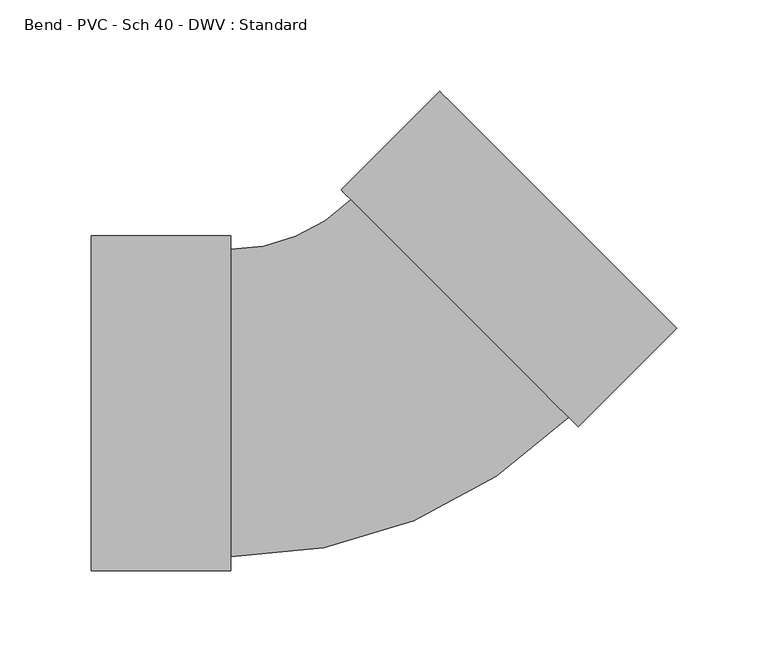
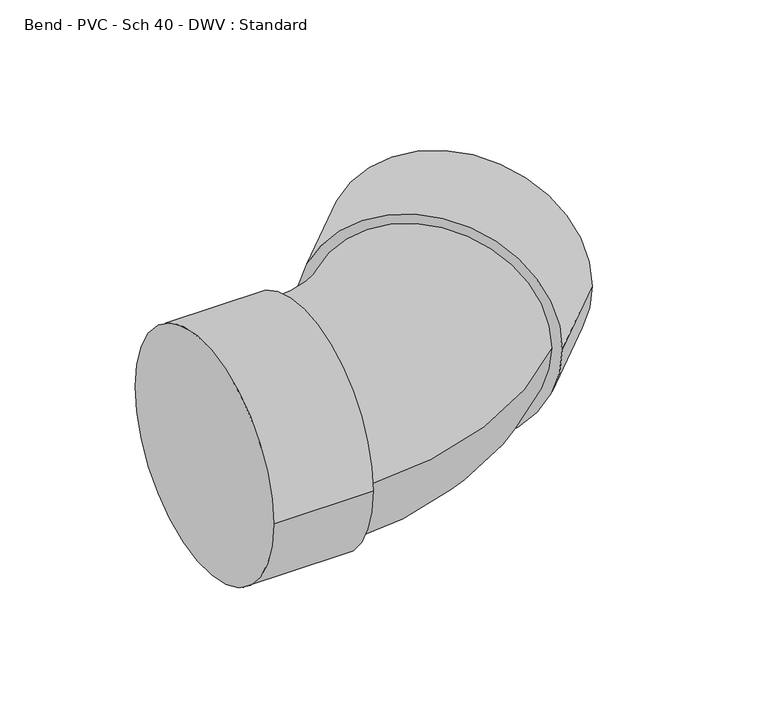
"""IFC4 building model written with IfcOpenShell, lengths in millimetres: pipe fitting geometry, Bend - PVC - Sch 40 - DWV : Standard."""

import ifcopenshell
import ifcopenshell.guid

model = None  # the IFC model being written
_history = None  # IfcOwnerHistory: only IFC2X3 demands one
_inside = {}  # id of a spatial element -> (the spatial element, [elements in it])
_under = {}  # id of a project, library or spatial element -> (it, [spatial elements below it])
_declared = {}  # id of a project -> (the project, [libraries it declares])
_typed = {}  # id of a type object -> (the type object, [elements of that type])
_made_of = {}  # id of a material, layer set ... -> (it, [elements and type objects made of it])


def new_model(schema):
    """Start an empty IFC model of exactly this schema.

    Asked for "IFC4X3", IfcOpenShell would pick the latest addendum, in which some entities
    have other attributes; the version numbers below select the first issue.
    IFC2X3 requires an IfcOwnerHistory on every rooted entity: one is made here for all.
    """
    global model, _history
    if schema == "IFC4X3":
        model = ifcopenshell.file(schema_version=(4, 3, 0, 0))
    else:
        model = ifcopenshell.file(schema=schema)
    _inside.clear()
    _under.clear()
    _declared.clear()
    _typed.clear()
    _made_of.clear()
    _history = None
    if model.schema == "IFC2X3":
        org = make("IfcOrganization", Name="unknown")
        user = make(
            "IfcPersonAndOrganization",
            ThePerson=make("IfcPerson", FamilyName="unknown"),
            TheOrganization=org,
        )
        app = make(
            "IfcApplication",
            ApplicationDeveloper=org,
            Version="unknown",
            ApplicationFullName="unknown",
            ApplicationIdentifier="unknown",
        )
        _history = make(
            "IfcOwnerHistory",
            OwningUser=user,
            OwningApplication=app,
            ChangeAction="ADDED",
            CreationDate=0,
        )
    return model


def make(cls, **values):
    """One entity of the class cls with the attributes given. An attribute that is None is left unset."""
    return model.create_entity(
        cls, **{name: value for name, value in values.items() if value is not None}
    )


def rooted(cls, **values):
    """An entity with a GlobalId (a new one), such as an element, a storey or a relation."""
    return make(cls, GlobalId=ifcopenshell.guid.new(), OwnerHistory=_history, **values)


def si_unit(unit_type, name, prefix=None):
    """IfcSIUnit, for example si_unit("LENGTHUNIT", "METRE", prefix="MILLI")."""
    return make("IfcSIUnit", UnitType=unit_type, Prefix=prefix, Name=name)


def assignment(units):
    """IfcUnitAssignment: the units of a project."""
    return None if units is None else make("IfcUnitAssignment", Units=units)


def point(xyz):
    """IfcCartesianPoint."""
    return None if xyz is None else make("IfcCartesianPoint", Coordinates=xyz)


def direction(xyz):
    """IfcDirection."""
    return None if xyz is None else make("IfcDirection", DirectionRatios=xyz)


def frame(location, z_axis=None, x_axis=None):
    """IfcAxis2Placement3D, a coordinate frame: its origin and axes. An axis left out is left unset."""
    return make(
        "IfcAxis2Placement3D",
        Location=point(location),
        Axis=direction(z_axis),
        RefDirection=direction(x_axis),
    )


def origin():
    """The frame at (0, 0, 0) with its axes left unset."""
    return frame((0.0, 0.0, 0.0))


def place(relative_to, where):
    """IfcLocalPlacement: puts the frame where relative to a parent placement (None: the world)."""
    return make(
        "IfcLocalPlacement", PlacementRelTo=relative_to, RelativePlacement=where
    )


def context(
    kind, dimensions, precision=None, world=None, true_north=None, identifier=None
):
    """IfcGeometricRepresentationContext, for example the 3D "Model" context."""
    return make(
        "IfcGeometricRepresentationContext",
        ContextIdentifier=identifier,
        ContextType=kind,
        CoordinateSpaceDimension=dimensions,
        Precision=precision,
        WorldCoordinateSystem=world,
        TrueNorth=true_north,
    )


def project(units=None, contexts=None):
    """IfcProject with its units and contexts."""
    return rooted(
        "IfcProject",
        Name="project",
        RepresentationContexts=contexts,
        UnitsInContext=assignment(units),
    )


def spatial(cls, under=None, at=None, **own):
    """A site, building, storey or space (cls), placed at a placement, below another one or the project."""
    s = rooted(cls, ObjectPlacement=at, **own)
    if under is not None:
        _under.setdefault(under.id(), (under, []))[1].append(s)
    return s


def circle_curve(where, radius):
    """IfcCircle in the frame where."""
    return make("IfcCircle", Position=where, Radius=radius)


def ellipse_curve(where, semi_axis1, semi_axis2):
    """IfcEllipse in the frame where."""
    return make(
        "IfcEllipse", Position=where, SemiAxis1=semi_axis1, SemiAxis2=semi_axis2
    )


def trimmed(basis, trim1, trim2, sense, master):
    """IfcTrimmedCurve: the piece of a basis curve between two trims."""
    return make(
        "IfcTrimmedCurve",
        BasisCurve=basis,
        Trim1=trim1,
        Trim2=trim2,
        SenseAgreement=sense,
        MasterRepresentation=master,
    )


def shape(context_of_items, identifier, shape_type, items):
    """IfcShapeRepresentation: the items that make up one representation, for example the "Body"."""
    return make(
        "IfcShapeRepresentation",
        ContextOfItems=context_of_items,
        RepresentationIdentifier=identifier,
        RepresentationType=shape_type,
        Items=items,
    )


def source(mapping_origin, context_of_items, identifier, shape_type, items):
    """IfcRepresentationMap: a shape defined once, which mapped items show again and again."""
    return make(
        "IfcRepresentationMap",
        MappingOrigin=mapping_origin,
        MappedRepresentation=shape(context_of_items, identifier, shape_type, items),
    )


def transform(
    local_origin,
    x_axis=None,
    y_axis=None,
    z_axis=None,
    scale=None,
    scale2=None,
    scale3=None,
    uniform=True,
):
    """IfcCartesianTransformationOperator3D, or its non-uniform kind. x_axis, y_axis, z_axis: its Axis1, 2, 3."""
    if uniform:
        return make(
            "IfcCartesianTransformationOperator3D",
            Axis1=direction(x_axis),
            Axis2=direction(y_axis),
            LocalOrigin=point(local_origin),
            Scale=scale,
            Axis3=direction(z_axis),
        )
    return make(
        "IfcCartesianTransformationOperator3DnonUniform",
        Axis1=direction(x_axis),
        Axis2=direction(y_axis),
        LocalOrigin=point(local_origin),
        Scale=scale,
        Axis3=direction(z_axis),
        Scale2=scale2,
        Scale3=scale3,
    )


def mapped(mapping_source, mapping_target):
    """IfcMappedItem: shows the shape of a source again, moved by a transform."""
    return make(
        "IfcMappedItem", MappingSource=mapping_source, MappingTarget=mapping_target
    )


def made_of(thing, what):
    """Note that an element or type object is made of a material, layer set ...; save() writes the relation."""
    if what is not None:
        _made_of.setdefault(what.id(), (what, []))[1].append(thing)
    return thing


def element(
    cls,
    number,
    at=None,
    inside=None,
    cuts=None,
    type_object=None,
    material=None,
    context=None,
    identifier="Body",
    shape_type=None,
    held_by="IfcProductDefinitionShape",
    body=None,
    shapes=None,
    **own,
):
    """One element of the class cls, such as IfcWall. Its Tag is "e" and its number.

    at: its placement. inside: the storey or other place that contains it. cuts: it is an
    opening in that element (IfcRelVoidsElement). A single representation is given by context,
    identifier, shape_type and body (its items); several are given by shapes. held_by: the class
    of the entity that holds the representations. save() writes the other relations.
    """
    e = rooted(cls, Tag="e%d" % number, ObjectPlacement=at, **own)
    if body is not None:
        shapes = [shape(context, identifier, shape_type, body)]
    if shapes is not None:
        e.Representation = make(held_by, Representations=shapes)
    if inside is not None:
        _inside.setdefault(inside.id(), (inside, []))[1].append(e)
    if cuts is not None:
        rooted(
            "IfcRelVoidsElement", RelatingBuildingElement=cuts, RelatedOpeningElement=e
        )
    if type_object is not None:
        _typed.setdefault(type_object.id(), (type_object, []))[1].append(e)
    return made_of(e, material)


def aggregate(whole, parts):
    """IfcRelAggregates: a whole, such as a stair, and the parts it consists of."""
    return rooted("IfcRelAggregates", RelatingObject=whole, RelatedObjects=parts)


def save(model, path):
    """Write the relations noted so far, then the file.

    IfcRelAggregates (storeys below a building ...), IfcRelContainedInSpatialStructure (elements
    in a storey), IfcRelDefinesByType, IfcRelAssociatesMaterial and IfcRelDeclares: one each for
    every whole, place, type object, material and project.
    """
    for whole, parts in _under.values():
        aggregate(whole, parts)
    for where, things in _inside.values():
        rooted(
            "IfcRelContainedInSpatialStructure",
            RelatedElements=things,
            RelatingStructure=where,
        )
    for kind, things in _typed.values():
        rooted("IfcRelDefinesByType", RelatedObjects=things, RelatingType=kind)
    for what, things in _made_of.values():
        rooted("IfcRelAssociatesMaterial", RelatedObjects=things, RelatingMaterial=what)
    for by, libraries in _declared.values():
        rooted("IfcRelDeclares", RelatingContext=by, RelatedDefinitions=libraries)
    model.write(path)


def plane_surface(at):
    """IfcPlane: the flat surface through the origin of the frame at, square to its z axis."""
    return make("IfcPlane", Position=at)


def cylinder_surface(at, radius):
    """IfcCylindricalSurface: all points at the distance radius from the z axis of the frame at."""
    return make("IfcCylindricalSurface", Position=at, Radius=radius)


def revolved_surface(curve, axis_point, axis_direction):
    """IfcSurfaceOfRevolution: the curve turned about the line through axis_point along axis_direction."""
    return make(
        "IfcSurfaceOfRevolution",
        SweptCurve=make("IfcArbitraryOpenProfileDef", ProfileType="CURVE", Curve=curve),
        AxisPosition=make("IfcAxis1Placement", Location=point(axis_point), Axis=direction(axis_direction)),
    )


def advanced_brep(points, edges, surfaces, faces):
    """IfcAdvancedBrep: a solid bounded by faces that lie on surfaces and meet in shared edges.

    An edge is (start, end): straight between two places in points (the first is 0);
    or (start, end, curve); or (start, end, curve, False) where it runs against its curve.
    A face is (place in surfaces, loops), or (place, loops, False) where it looks against
    its surface's normal. A loop lists edges by number (the first is 1), with a minus sign
    where the edge is run from its end to its start. The first loop is the outer one.
    """
    corners = [point(p) for p in points]
    vertices = [make("IfcVertexPoint", VertexGeometry=c) for c in corners]
    made = []
    for start, end, *more in edges:
        made.append(
            make(
                "IfcEdgeCurve",
                EdgeStart=vertices[start],
                EdgeEnd=vertices[end],
                EdgeGeometry=more[0] if more else make("IfcPolyline", Points=[corners[start], corners[end]]),
                SameSense=more[1] if len(more) > 1 else True,
            )
        )
    hull = []
    for where, loops, *sense in faces:
        bounds = []
        for j, loop in enumerate(loops):
            ring = [make("IfcOrientedEdge", EdgeElement=made[abs(k) - 1], Orientation=k > 0) for k in loop]
            bounds.append(
                make(
                    "IfcFaceOuterBound" if j == 0 else "IfcFaceBound",
                    Bound=make("IfcEdgeLoop", EdgeList=ring),
                    Orientation=True,
                )
            )
        hull.append(make("IfcAdvancedFace", Bounds=bounds, FaceSurface=surfaces[where], SameSense=sense[0] if sense else True))
    return make("IfcAdvancedBrep", Outer=make("IfcClosedShell", CfsFaces=hull))


def bend_pvc_sch_40_dwv_standard_3c520073(model_context):
    return source(origin(), model_context, "Body", "AdvancedBrep", [
        advanced_brep(
        [(-149.5980625, -91.5543, 0.0), (-149.5980625, 91.5543, 0.0), (-73.3980625, -91.5543, 0.0), (-73.3980625, 91.5543, 0.0), (-73.3980625, -84.1375, 0.0), (-73.3980625, 84.1375, 0.0), (-7.5967518, 111.3942721, 0.0), (111.3946569, -7.5911064, 0.0), (116.6392594, -12.8354431, 0.0), (-12.8413542, 116.6386087, 0.0), (170.5194308, 41.047459, 0.0), (41.0388172, 170.5215108, 0.0)],
        [
            (0, 1, circle_curve(frame((-149.5980625, 0.0, 0.0), z_axis=(-1.0, 0.0, 0.0), x_axis=(0.0, 1.0, 0.0)), 91.5543)),
            (1, 0, circle_curve(frame((-149.5980625, 0.0, 0.0), z_axis=(-1.0, 0.0, 0.0), x_axis=(0.0, 1.0, 0.0)), 91.5543)),
            (2, 3, circle_curve(frame((-73.3980625, 0.0, 0.0), z_axis=(1.0, 0.0, 0.0), x_axis=(0.0, 1.0, 0.0)), 91.5543)),
            (3, 2, circle_curve(frame((-73.3980625, 0.0, 0.0), z_axis=(1.0, 0.0, 0.0), x_axis=(0.0, 1.0, 0.0)), 91.5543)),
            (4, 5, circle_curve(frame((-73.3980625, 0.0, 0.0), z_axis=(-1.0, 0.0, 0.0), x_axis=(0.0, 1.0, 0.0)), 84.1375)),
            (5, 4, circle_curve(frame((-73.3980625, 0.0, 0.0), z_axis=(-1.0, 0.0, 0.0), x_axis=(0.0, 1.0, 0.0)), 84.1375)),
            (0, 2),
            (3, 1),
            (6, 5, circle_curve(frame((-73.3980625, 177.1922481, 0.0), z_axis=(0.0, 0.0, -1.0), x_axis=(0.0, -1.0, 0.0)), 93.0547481)),
            (4, 7, circle_curve(frame((-73.3980625, 177.1922481, 0.0), z_axis=(0.0, 0.0, 1.0), x_axis=(0.0, -1.0, 0.0)), 261.3297481)),
            (7, 6, circle_curve(frame((51.8989526, 51.9015828, 0.0), z_axis=(-0.7070888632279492, -0.7071246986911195, 0.0), x_axis=(-0.7071246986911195, 0.7070888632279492, 0.0)), 84.1375)),
            (6, 7, circle_curve(frame((51.8989526, 51.9015828, 0.0), z_axis=(-0.7070888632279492, -0.7071246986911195, 0.0), x_axis=(-0.7071246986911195, 0.7070888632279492, 0.0)), 84.1375)),
            (8, 9, circle_curve(frame((51.8989526, 51.9015828, 0.0), z_axis=(-0.7070888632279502, -0.7071246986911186, 0.0), x_axis=(-0.7071246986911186, 0.7070888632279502, 0.0)), 91.5543)),
            (9, 8, circle_curve(frame((51.8989526, 51.9015828, 0.0), z_axis=(-0.7070888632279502, -0.7071246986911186, 0.0), x_axis=(-0.7071246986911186, 0.7070888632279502, 0.0)), 91.5543)),
            (10, 11, circle_curve(frame((105.779124, 105.7844849, 0.0), z_axis=(0.7070888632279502, 0.7071246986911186, 0.0), x_axis=(-0.7071246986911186, 0.7070888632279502, 0.0)), 91.5543)),
            (11, 10, circle_curve(frame((105.779124, 105.7844849, 0.0), z_axis=(0.7070888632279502, 0.7071246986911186, 0.0), x_axis=(-0.7071246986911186, 0.7070888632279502, 0.0)), 91.5543)),
            (8, 10),
            (11, 9),
        ],
        [
            plane_surface(frame((-149.5980625, 0.0, 0.0), z_axis=(-1.0, 0.0, 0.0), x_axis=(0.0, 0.0, 1.0))),
            plane_surface(frame((-73.3980625, 0.0, 0.0), z_axis=(1.0, 0.0, 0.0), x_axis=(0.0, 0.0, 1.0))),
            cylinder_surface(frame((-149.5980625, 0.0, 0.0), z_axis=(-1.0, 0.0, 0.0), x_axis=(0.0, 1.0, 0.0)), 91.5543),
            revolved_surface(trimmed(ellipse_curve(frame((-73.3980625, 0.0, 0.0), z_axis=(-1.0, 0.0, 0.0), x_axis=(0.0, 1.0, 0.0)), 84.1375, 84.1375), [point((-73.3980625, -84.1375, 0.0))], [point((-73.3980625, 84.1375, 0.0))], True, "CARTESIAN"), (-73.3980625, 177.1922481, 0.0), (0.0, 0.0, 1.0)),
            revolved_surface(trimmed(ellipse_curve(frame((-73.3980625, 0.0, 0.0), z_axis=(-1.0, 0.0, 0.0), x_axis=(0.0, 1.0, 0.0)), 84.1375, 84.1375), [point((-73.3980625, 84.1375, 0.0))], [point((-73.3980625, -84.1375, 0.0))], True, "CARTESIAN"), (-73.3980625, 177.1922481, 0.0), (0.0, 0.0, 1.0)),
            plane_surface(frame((51.8989526, 51.9015828, 0.0), z_axis=(-0.7070888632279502, -0.7071246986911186, 0.0), x_axis=(0.0, 0.0, 1.0))),
            plane_surface(frame((105.779124, 105.7844849, 0.0), z_axis=(0.7070888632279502, 0.7071246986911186, 0.0), x_axis=(0.0, 0.0, 1.0))),
            cylinder_surface(frame((51.8989526, 51.9015828, 0.0), z_axis=(-0.7070888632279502, -0.7071246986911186, 0.0), x_axis=(-0.7071246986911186, 0.7070888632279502, 0.0)), 91.5543),
        ],
        [
            (0, [[1, 2]]),
            (1, [[3, 4], [5, 6]]),
            (2, [[-1, 7, -4, 8]]),
            (2, [[-2, -8, -3, -7]]),
            (3, [[9, -5, 10, 11]]),
            (4, [[-9, 12, -10, -6]]),
            (5, [[13, 14], [-11, -12]]),
            (6, [[15, 16]]),
            (7, [[-13, 17, -16, 18]]),
            (7, [[-14, -18, -15, -17]]),
        ],
    ),
    ])


if __name__ == "__main__":
    model = new_model("IFC4")
    model_context = context("Model", 3, world=origin())
    ifc_project = project(units=[si_unit("LENGTHUNIT", "METRE", prefix="MILLI")], contexts=[model_context])
    site = spatial("IfcSite", under=ifc_project)
    building = spatial("IfcBuilding", under=site)
    placement = place(None, origin())
    bend_pvc_sch_40_dwv_standard_shape = bend_pvc_sch_40_dwv_standard_3c520073(model_context)
    element("IfcPipeFitting", 1, ObjectType="Bend - PVC - Sch 40 - DWV : Standard", at=placement, inside=building, context=model_context, shape_type="MappedRepresentation", body=[
        mapped(bend_pvc_sch_40_dwv_standard_shape, transform((0.0, 0.0, 0.0), x_axis=(1.0, 0.0, 0.0), y_axis=(0.0, 1.0, 0.0), z_axis=(0.0, 0.0, 1.0))),
    ])
    save(model, "model.ifc")
